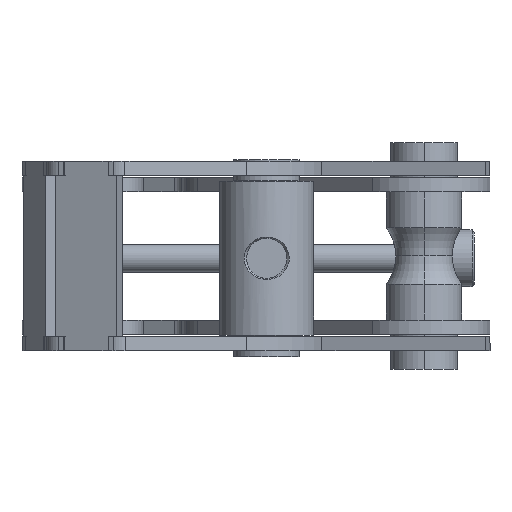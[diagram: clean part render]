
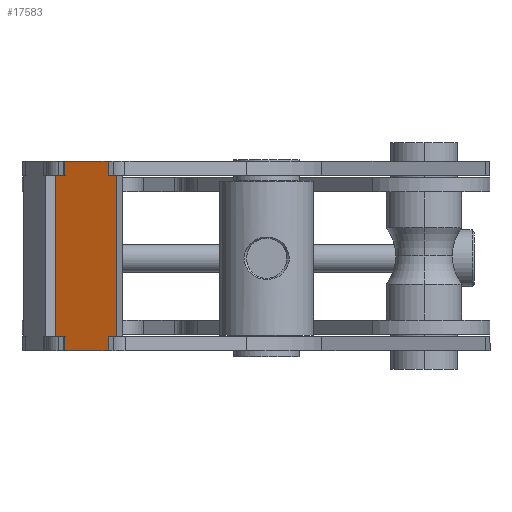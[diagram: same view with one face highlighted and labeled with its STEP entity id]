
A CAD part, left-side view. The second image highlights one B-rep face of the part: STEP entity #17583.
In plain terms, the highlighted planar face has unit normal (-0.93, 0.368, 0) as drawn and (0, 1, 0) by its records, which use the part's own axes.
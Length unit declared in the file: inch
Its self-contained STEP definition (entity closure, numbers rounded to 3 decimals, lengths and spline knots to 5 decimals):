
#408 = LINE ( 'NONE', #4121, #21407 ) ;
#516 = ORIENTED_EDGE ( 'NONE', *, *, #23277, .T. ) ;
#917 = ORIENTED_EDGE ( 'NONE', *, *, #21526, .T. ) ;
#965 = LINE ( 'NONE', #10639, #18603 ) ;
#1060 = EDGE_CURVE ( 'NONE', #9720, #18650, #13222, .T. ) ;
#1315 = CARTESIAN_POINT ( 'NONE',  ( 2.3225, 0.1875, -0.125 ) ) ;
#1756 = CARTESIAN_POINT ( 'NONE',  ( 2.3225, 0.1875, -0.75 ) ) ;
#2528 = VERTEX_POINT ( 'NONE', #23470 ) ;
#3150 = CARTESIAN_POINT ( 'NONE',  ( 2.51, 0.1875, -0.125 ) ) ;
#4100 = EDGE_CURVE ( 'NONE', #24174, #23589, #8030, .T. ) ;
#4121 = CARTESIAN_POINT ( 'NONE',  ( 0., 0.1875, -0.125 ) ) ;
#4213 = VECTOR ( 'NONE', #15083, 39.37008 ) ;
#4231 = CARTESIAN_POINT ( 'NONE',  ( 0.1875, 0.1875, 0. ) ) ;
#4647 = EDGE_CURVE ( 'NONE', #6877, #9720, #23686, .T. ) ;
#5250 = VECTOR ( 'NONE', #20669, 39.37008 ) ;
#5395 = VECTOR ( 'NONE', #9776, 39.37008 ) ;
#5413 = VERTEX_POINT ( 'NONE', #24006 ) ;
#6480 = LINE ( 'NONE', #19710, #20203 ) ;
#6503 = VERTEX_POINT ( 'NONE', #1315 ) ;
#6752 = VERTEX_POINT ( 'NONE', #11499 ) ;
#6877 = VERTEX_POINT ( 'NONE', #23130 ) ;
#7115 = DIRECTION ( 'NONE',  ( 0., 1., 0. ) ) ;
#7772 = AXIS2_PLACEMENT_3D ( 'NONE', #10954, #7115, #18863 ) ;
#7810 = CARTESIAN_POINT ( 'NONE',  ( 2.51, 0.1875, -0.75 ) ) ;
#7926 = EDGE_CURVE ( 'NONE', #14454, #7973, #14678, .T. ) ;
#7973 = VERTEX_POINT ( 'NONE', #22111 ) ;
#8030 = LINE ( 'NONE', #15565, #15135 ) ;
#8588 = EDGE_CURVE ( 'NONE', #23589, #6752, #408, .T. ) ;
#8655 = CARTESIAN_POINT ( 'NONE',  ( 2.3225, 0.1875, 0. ) ) ;
#8816 = DIRECTION ( 'NONE',  ( 1., 0., 0. ) ) ;
#8937 = CARTESIAN_POINT ( 'NONE',  ( 0., 0.1875, -0.125 ) ) ;
#9154 = CARTESIAN_POINT ( 'NONE',  ( 2.3225, 0.1875, 0. ) ) ;
#9720 = VERTEX_POINT ( 'NONE', #4231 ) ;
#9755 = ORIENTED_EDGE ( 'NONE', *, *, #4100, .T. ) ;
#9776 = DIRECTION ( 'NONE',  ( -1., 0., 0. ) ) ;
#10062 = EDGE_LOOP ( 'NONE', ( #917, #9755, #21476, #18004, #12931, #15528, #22500, #17882, #516, #16159, #22969, #18126 ) ) ;
#10598 = LINE ( 'NONE', #3150, #11289 ) ;
#10639 = CARTESIAN_POINT ( 'NONE',  ( 0.1875, 0.1875, -0.875 ) ) ;
#10954 = CARTESIAN_POINT ( 'NONE',  ( 0., 0.1875, 0. ) ) ;
#11007 = LINE ( 'NONE', #9154, #21952 ) ;
#11289 = VECTOR ( 'NONE', #21983, 39.37008 ) ;
#11499 = CARTESIAN_POINT ( 'NONE',  ( 0., 0.1875, -0.125 ) ) ;
#11803 = DIRECTION ( 'NONE',  ( 0., 0., 1. ) ) ;
#12190 = VECTOR ( 'NONE', #23602, 39.37008 ) ;
#12313 = EDGE_CURVE ( 'NONE', #6503, #17247, #10598, .T. ) ;
#12398 = LINE ( 'NONE', #8937, #23614 ) ;
#12802 = LINE ( 'NONE', #14908, #21391 ) ;
#12931 = ORIENTED_EDGE ( 'NONE', *, *, #4647, .T. ) ;
#13061 = EDGE_CURVE ( 'NONE', #18650, #6503, #11007, .T. ) ;
#13222 = LINE ( 'NONE', #18910, #4213 ) ;
#14454 = VERTEX_POINT ( 'NONE', #1756 ) ;
#14678 = LINE ( 'NONE', #16040, #12190 ) ;
#14908 = CARTESIAN_POINT ( 'NONE',  ( 0.1875, 0.1875, -0.875 ) ) ;
#15036 = PLANE ( 'NONE',  #7772 ) ;
#15083 = DIRECTION ( 'NONE',  ( 1., 0., 0. ) ) ;
#15135 = VECTOR ( 'NONE', #23253, 39.37008 ) ;
#15148 = DIRECTION ( 'NONE',  ( -1., 0., 0. ) ) ;
#15528 = ORIENTED_EDGE ( 'NONE', *, *, #1060, .T. ) ;
#15565 = CARTESIAN_POINT ( 'NONE',  ( 0., 0.1875, -0.75 ) ) ;
#16040 = CARTESIAN_POINT ( 'NONE',  ( 2.3225, 0.1875, -0.875 ) ) ;
#16129 = CARTESIAN_POINT ( 'NONE',  ( 0.1875, 0.1875, 0. ) ) ;
#16159 = ORIENTED_EDGE ( 'NONE', *, *, #16845, .T. ) ;
#16703 = DIRECTION ( 'NONE',  ( 0., 0., -1. ) ) ;
#16845 = EDGE_CURVE ( 'NONE', #2528, #14454, #23148, .T. ) ;
#17013 = FACE_OUTER_BOUND ( 'NONE', #10062, .T. ) ;
#17247 = VERTEX_POINT ( 'NONE', #18556 ) ;
#17488 = DIRECTION ( 'NONE',  ( 0., 0., -1. ) ) ;
#17583 = ADVANCED_FACE ( 'NONE', ( #17013 ), #15036, .T. ) ;
#17882 = ORIENTED_EDGE ( 'NONE', *, *, #12313, .T. ) ;
#18004 = ORIENTED_EDGE ( 'NONE', *, *, #21092, .T. ) ;
#18126 = ORIENTED_EDGE ( 'NONE', *, *, #23092, .T. ) ;
#18529 = CARTESIAN_POINT ( 'NONE',  ( 0.1875, 0.1875, -0.75 ) ) ;
#18556 = CARTESIAN_POINT ( 'NONE',  ( 2.51, 0.1875, -0.125 ) ) ;
#18603 = VECTOR ( 'NONE', #21776, 39.37008 ) ;
#18650 = VERTEX_POINT ( 'NONE', #8655 ) ;
#18863 = DIRECTION ( 'NONE',  ( 0., 0., 1. ) ) ;
#18910 = CARTESIAN_POINT ( 'NONE',  ( 0.1875, 0.1875, 0. ) ) ;
#19710 = CARTESIAN_POINT ( 'NONE',  ( 2.51, 0.1875, -0.125 ) ) ;
#20203 = VECTOR ( 'NONE', #17488, 39.37008 ) ;
#20669 = DIRECTION ( 'NONE',  ( 0., 0., 1. ) ) ;
#21092 = EDGE_CURVE ( 'NONE', #6752, #6877, #12398, .T. ) ;
#21391 = VECTOR ( 'NONE', #15148, 39.37008 ) ;
#21407 = VECTOR ( 'NONE', #11803, 39.37008 ) ;
#21476 = ORIENTED_EDGE ( 'NONE', *, *, #8588, .T. ) ;
#21526 = EDGE_CURVE ( 'NONE', #5413, #24174, #965, .T. ) ;
#21776 = DIRECTION ( 'NONE',  ( 0., 0., 1. ) ) ;
#21952 = VECTOR ( 'NONE', #16703, 39.37008 ) ;
#21983 = DIRECTION ( 'NONE',  ( 1., 0., 0. ) ) ;
#22111 = CARTESIAN_POINT ( 'NONE',  ( 2.3225, 0.1875, -0.875 ) ) ;
#22500 = ORIENTED_EDGE ( 'NONE', *, *, #13061, .T. ) ;
#22969 = ORIENTED_EDGE ( 'NONE', *, *, #7926, .T. ) ;
#23092 = EDGE_CURVE ( 'NONE', #7973, #5413, #12802, .T. ) ;
#23130 = CARTESIAN_POINT ( 'NONE',  ( 0.1875, 0.1875, -0.125 ) ) ;
#23148 = LINE ( 'NONE', #7810, #5395 ) ;
#23253 = DIRECTION ( 'NONE',  ( -1., 0., 0. ) ) ;
#23277 = EDGE_CURVE ( 'NONE', #17247, #2528, #6480, .T. ) ;
#23470 = CARTESIAN_POINT ( 'NONE',  ( 2.51, 0.1875, -0.75 ) ) ;
#23589 = VERTEX_POINT ( 'NONE', #24054 ) ;
#23602 = DIRECTION ( 'NONE',  ( 0., 0., -1. ) ) ;
#23614 = VECTOR ( 'NONE', #8816, 39.37008 ) ;
#23686 = LINE ( 'NONE', #16129, #5250 ) ;
#24006 = CARTESIAN_POINT ( 'NONE',  ( 0.1875, 0.1875, -0.875 ) ) ;
#24054 = CARTESIAN_POINT ( 'NONE',  ( 0., 0.1875, -0.75 ) ) ;
#24174 = VERTEX_POINT ( 'NONE', #18529 ) ;
